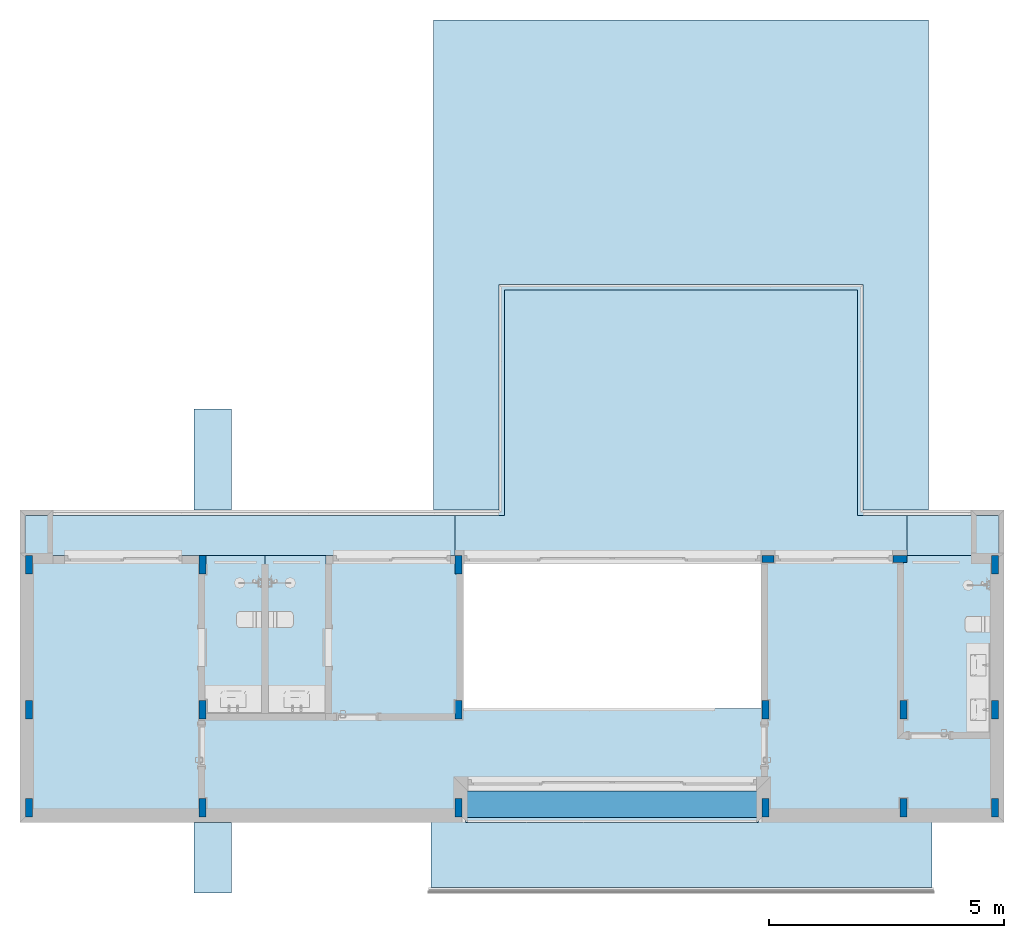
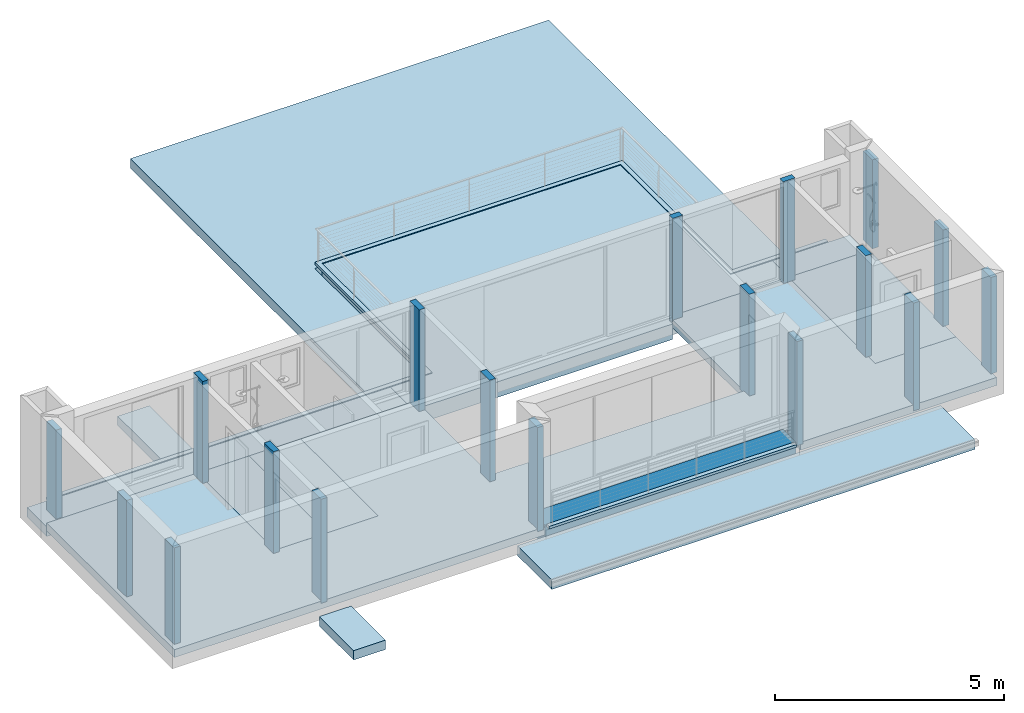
# One storey, part 1 of 24: 18 columns, 14 slabs.
"""IFC2X3 building model written with IfcOpenShell, lengths in millimetres."""

import ifcopenshell
import ifcopenshell.guid

model = None  # the IFC model being written
_history = None  # IfcOwnerHistory: only IFC2X3 demands one
_inside = {}  # id of a spatial element -> (the spatial element, [elements in it])
_under = {}  # id of a project, library or spatial element -> (it, [spatial elements below it])
_declared = {}  # id of a project -> (the project, [libraries it declares])
_typed = {}  # id of a type object -> (the type object, [elements of that type])
_made_of = {}  # id of a material, layer set ... -> (it, [elements and type objects made of it])


def new_model(schema):
    """Start an empty IFC model of exactly this schema.

    Asked for "IFC4X3", IfcOpenShell would pick the latest addendum, in which some entities
    have other attributes; the version numbers below select the first issue.
    IFC2X3 requires an IfcOwnerHistory on every rooted entity: one is made here for all.
    """
    global model, _history
    if schema == "IFC4X3":
        model = ifcopenshell.file(schema_version=(4, 3, 0, 0))
    else:
        model = ifcopenshell.file(schema=schema)
    _inside.clear()
    _under.clear()
    _declared.clear()
    _typed.clear()
    _made_of.clear()
    _history = None
    if model.schema == "IFC2X3":
        org = make("IfcOrganization", Name="unknown")
        user = make(
            "IfcPersonAndOrganization",
            ThePerson=make("IfcPerson", FamilyName="unknown"),
            TheOrganization=org,
        )
        app = make(
            "IfcApplication",
            ApplicationDeveloper=org,
            Version="unknown",
            ApplicationFullName="unknown",
            ApplicationIdentifier="unknown",
        )
        _history = make(
            "IfcOwnerHistory",
            OwningUser=user,
            OwningApplication=app,
            ChangeAction="ADDED",
            CreationDate=0,
        )
    return model


def make(cls, **values):
    """One entity of the class cls with the attributes given. An attribute that is None is left unset."""
    return model.create_entity(
        cls, **{name: value for name, value in values.items() if value is not None}
    )


def entity(cls, *values):
    """Any entity or typed value of the class cls, its attributes in the order of the schema. None: left unset."""
    e = model.create_entity(cls)
    for i, value in enumerate(values):
        if value is not None:
            e[i] = value
    return e


def rooted(cls, **values):
    """An entity with a GlobalId (a new one), such as an element, a storey or a relation."""
    return make(cls, GlobalId=ifcopenshell.guid.new(), OwnerHistory=_history, **values)


def si_unit(unit_type, name, prefix=None):
    """IfcSIUnit, for example si_unit("LENGTHUNIT", "METRE", prefix="MILLI")."""
    return make("IfcSIUnit", UnitType=unit_type, Prefix=prefix, Name=name)


def converted_unit(unit_type, name, factor, base, dimensions=None, offset=None):
    """IfcConversionBasedUnit, such as the inch: factor (a typed value) times the base unit."""
    return make(
        "IfcConversionBasedUnit"
        if offset is None
        else "IfcConversionBasedUnitWithOffset",
        ConversionOffset=offset,
        Dimensions=None
        if dimensions is None
        else entity("IfcDimensionalExponents", *dimensions),
        UnitType=unit_type,
        Name=name,
        ConversionFactor=make(
            "IfcMeasureWithUnit", ValueComponent=factor, UnitComponent=base
        ),
    )


def money_unit(currency):
    """IfcMonetaryUnit."""
    return make("IfcMonetaryUnit", Currency=currency)


def assignment(units):
    """IfcUnitAssignment: the units of a project."""
    return None if units is None else make("IfcUnitAssignment", Units=units)


def point(xyz):
    """IfcCartesianPoint."""
    return None if xyz is None else make("IfcCartesianPoint", Coordinates=xyz)


def direction(xyz):
    """IfcDirection."""
    return None if xyz is None else make("IfcDirection", DirectionRatios=xyz)


def frame(location, z_axis=None, x_axis=None):
    """IfcAxis2Placement3D, a coordinate frame: its origin and axes. An axis left out is left unset."""
    return make(
        "IfcAxis2Placement3D",
        Location=point(location),
        Axis=direction(z_axis),
        RefDirection=direction(x_axis),
    )


def frame_2d(location, x_axis=None):
    """IfcAxis2Placement2D, a coordinate frame in the plane: its origin and x axis."""
    return make(
        "IfcAxis2Placement2D", Location=point(location), RefDirection=direction(x_axis)
    )


def origin_with_axes():
    """The frame at (0, 0, 0) with the z axis (0, 0, 1) and the x axis (1, 0, 0) written out."""
    return frame((0.0, 0.0, 0.0), z_axis=(0.0, 0.0, 1.0), x_axis=(1.0, 0.0, 0.0))


def origin_2d_with_axis():
    """The frame at (0, 0) in the plane with the x axis (1, 0) written out."""
    return frame_2d((0.0, 0.0), x_axis=(1.0, 0.0))


def place(relative_to, where):
    """IfcLocalPlacement: puts the frame where relative to a parent placement (None: the world)."""
    return make(
        "IfcLocalPlacement", PlacementRelTo=relative_to, RelativePlacement=where
    )


def context(
    kind, dimensions, precision=None, world=None, true_north=None, identifier=None
):
    """IfcGeometricRepresentationContext, for example the 3D "Model" context."""
    return make(
        "IfcGeometricRepresentationContext",
        ContextIdentifier=identifier,
        ContextType=kind,
        CoordinateSpaceDimension=dimensions,
        Precision=precision,
        WorldCoordinateSystem=world,
        TrueNorth=true_north,
    )


def subcontext(parent, identifier, kind, view, scale=None):
    """IfcGeometricRepresentationSubContext, for example "Body" below "Model"."""
    return make(
        "IfcGeometricRepresentationSubContext",
        ContextIdentifier=identifier,
        ContextType=kind,
        ParentContext=parent,
        TargetScale=scale,
        TargetView=view,
    )


def project(units=None, contexts=None):
    """IfcProject with its units and contexts."""
    return rooted(
        "IfcProject",
        Name="project",
        RepresentationContexts=contexts,
        UnitsInContext=assignment(units),
    )


def spatial(cls, under=None, at=None, **own):
    """A site, building, storey or space (cls), placed at a placement, below another one or the project."""
    s = rooted(cls, ObjectPlacement=at, **own)
    if under is not None:
        _under.setdefault(under.id(), (under, []))[1].append(s)
    return s


def polyline(points):
    """IfcPolyline through the points."""
    return make("IfcPolyline", Points=[point(p) for p in points])


def profile(cls, at=None, kind="AREA", **sizes):
    """A parametric profile (cls). Its sizes go by their IFC names, for example OverallWidth=200.0."""
    return make(cls, ProfileType=kind, Position=at, **sizes)


def rectangle(**sizes):
    """IfcRectangleProfileDef."""
    return profile("IfcRectangleProfileDef", **sizes)


def outline(outer, holes=None, kind="AREA"):
    """IfcArbitraryClosedProfileDef: a profile drawn as a closed curve; with holes, ...WithVoids."""
    if holes is None:
        return make("IfcArbitraryClosedProfileDef", ProfileType=kind, OuterCurve=outer)
    return make(
        "IfcArbitraryProfileDefWithVoids",
        ProfileType=kind,
        OuterCurve=outer,
        InnerCurves=holes,
    )


def extrude(swept, where, along, depth):
    """IfcExtrudedAreaSolid: the profile swept, set in the frame where, extruded along a direction by depth."""
    return make(
        "IfcExtrudedAreaSolid",
        SweptArea=swept,
        Position=where,
        ExtrudedDirection=direction(along),
        Depth=depth,
    )


def shape(context_of_items, identifier, shape_type, items):
    """IfcShapeRepresentation: the items that make up one representation, for example the "Body"."""
    return make(
        "IfcShapeRepresentation",
        ContextOfItems=context_of_items,
        RepresentationIdentifier=identifier,
        RepresentationType=shape_type,
        Items=items,
    )


def material(Name=None, Category=None):
    """IfcMaterial."""
    return make("IfcMaterial", Name=Name, Category=Category)


def layer(
    of_material, thickness, ventilated=None, Name=None, Category=None, Priority=None
):
    """IfcMaterialLayer: one layer of a wall or slab, of a material (None: an air gap)."""
    return make(
        "IfcMaterialLayer",
        Material=of_material,
        LayerThickness=thickness,
        IsVentilated=ventilated,
        Name=Name,
        Category=Category,
        Priority=Priority,
    )


def layer_set(layers, Name=None):
    """IfcMaterialLayerSet."""
    return make("IfcMaterialLayerSet", MaterialLayers=layers, LayerSetName=Name)


def layer_usage(for_layer_set, set_direction, sense, offset, extent=None):
    """IfcMaterialLayerSetUsage: how a layer set lies in its element."""
    return make(
        "IfcMaterialLayerSetUsage",
        ForLayerSet=for_layer_set,
        LayerSetDirection=set_direction,
        DirectionSense=sense,
        OffsetFromReferenceLine=offset,
        ReferenceExtent=extent,
    )


def made_of(thing, what):
    """Note that an element or type object is made of a material, layer set ...; save() writes the relation."""
    if what is not None:
        _made_of.setdefault(what.id(), (what, []))[1].append(thing)
    return thing


def type_object(cls, material=None, **own):
    """A type object (cls), such as IfcWallType, which elements share."""
    return made_of(rooted(cls, **own), material)


def element(
    cls,
    number,
    at=None,
    inside=None,
    cuts=None,
    type_object=None,
    material=None,
    context=None,
    identifier="Body",
    shape_type=None,
    held_by="IfcProductDefinitionShape",
    body=None,
    shapes=None,
    **own,
):
    """One element of the class cls, such as IfcWall. Its Tag is "e" and its number.

    at: its placement. inside: the storey or other place that contains it. cuts: it is an
    opening in that element (IfcRelVoidsElement). A single representation is given by context,
    identifier, shape_type and body (its items); several are given by shapes. held_by: the class
    of the entity that holds the representations. save() writes the other relations.
    """
    e = rooted(cls, Tag="e%d" % number, ObjectPlacement=at, **own)
    if body is not None:
        shapes = [shape(context, identifier, shape_type, body)]
    if shapes is not None:
        e.Representation = make(held_by, Representations=shapes)
    if inside is not None:
        _inside.setdefault(inside.id(), (inside, []))[1].append(e)
    if cuts is not None:
        rooted(
            "IfcRelVoidsElement", RelatingBuildingElement=cuts, RelatedOpeningElement=e
        )
    if type_object is not None:
        _typed.setdefault(type_object.id(), (type_object, []))[1].append(e)
    return made_of(e, material)


def aggregate(whole, parts):
    """IfcRelAggregates: a whole, such as a stair, and the parts it consists of."""
    return rooted("IfcRelAggregates", RelatingObject=whole, RelatedObjects=parts)


def save(model, path):
    """Write the relations noted so far, then the file.

    IfcRelAggregates (storeys below a building ...), IfcRelContainedInSpatialStructure (elements
    in a storey), IfcRelDefinesByType, IfcRelAssociatesMaterial and IfcRelDeclares: one each for
    every whole, place, type object, material and project.
    """
    for whole, parts in _under.values():
        aggregate(whole, parts)
    for where, things in _inside.values():
        rooted(
            "IfcRelContainedInSpatialStructure",
            RelatedElements=things,
            RelatingStructure=where,
        )
    for kind, things in _typed.values():
        rooted("IfcRelDefinesByType", RelatedObjects=things, RelatingType=kind)
    for what, things in _made_of.values():
        rooted("IfcRelAssociatesMaterial", RelatedObjects=things, RelatingMaterial=what)
    for by, libraries in _declared.values():
        rooted("IfcRelDeclares", RelatingContext=by, RelatedDefinitions=libraries)
    model.write(path)


model = new_model("IFC2X3")

# Units and contexts
model_context = context("Model", 3, precision=1e-05, world=origin_with_axes(), true_north=direction((0.0, 1.0)))
body_context = subcontext(model_context, "Body", "Model", "MODEL_VIEW")
ifc_project = project(units=[si_unit("LENGTHUNIT", "METRE", prefix="MILLI"), si_unit("AREAUNIT", "SQUARE_METRE"), si_unit("VOLUMEUNIT", "CUBIC_METRE"), converted_unit("PLANEANGLEUNIT", "DEGREE", entity("IfcPlaneAngleMeasure", 0.0174532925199), si_unit("PLANEANGLEUNIT", "RADIAN"), dimensions=[0, 0, 0, 0, 0, 0, 0]), si_unit("SOLIDANGLEUNIT", "STERADIAN"), money_unit("USD"), converted_unit("TIMEUNIT", "Year", entity("IfcTimeMeasure", 31556926.0), si_unit("TIMEUNIT", "SECOND"), dimensions=[0, 0, 0, 0, 0, 0, 0]), si_unit("MASSUNIT", "GRAM"), si_unit("THERMODYNAMICTEMPERATUREUNIT", "DEGREE_CELSIUS"), si_unit("LUMINOUSINTENSITYUNIT", "LUMEN")], contexts=[model_context])

# Site, building, storey
site_placement = place(None, origin_with_axes())
site = spatial("IfcSite", under=ifc_project, at=site_placement, Name="Grove Residential", CompositionType="ELEMENT")
building_placement = place(site_placement, origin_with_axes())
building = spatial("IfcBuilding", under=site, at=building_placement, Name="Building", CompositionType="ELEMENT")
storey_placement = place(building_placement, frame((0.0, 0.0, 3740.0), z_axis=(0.0, 0.0, 1.0), x_axis=(1.0, 0.0, 0.0)))
storey = spatial("IfcBuildingStorey", under=building, at=storey_placement, Name="First Floor", CompositionType="ELEMENT", Elevation=3740.0)

# Columns
ifc_material_1 = material(Name="Concrete - Structural")
column_type_1 = type_object("IfcColumnType", Name="Concrete - Structural 150 x 400", PredefinedType="NOTDEFINED")
for number, where, z_axis, x_axis, name in (
    (1, (12060.0, 3749.99996722, 140.0), (0.0, 0.0, 1.0), (1.0, 0.0, 0.0), "CRE - 001"),
    (2, (12060.0, 1664.99992309, 140.0), (0.0, 0.0, 1.0), (1.0, 0.0, 0.0), "CRE - 001"),
):
    element("IfcColumn", number, at=place(storey_placement, frame(where, z_axis=z_axis, x_axis=x_axis)), inside=storey, type_object=column_type_1, material=ifc_material_1, Name=name, ObjectType="Concrete - Structural 150 x 400", context=body_context, shape_type="SweptSolid", body=[
        extrude(rectangle(XDim=150.0, YDim=400.0, at=origin_2d_with_axis()), origin_with_axes(), (0.0, 0.0, 1.0), 2570.0),
    ])
for number, where, z_axis, x_axis, name in (
    (3, (12060.0, 6835.0, 340.0), (0.0, 0.0, 1.0), (1.0, 0.0, 0.0), "CRE - 001"),
    (4, (-8510.0, 6835.0, 340.0), (0.0, 0.0, 1.0), (1.0, 0.0, 0.0), "CRE - 001"),
):
    element("IfcColumn", number, at=place(storey_placement, frame(where, z_axis=z_axis, x_axis=x_axis)), inside=storey, type_object=column_type_1, material=ifc_material_1, Name=name, ObjectType="Concrete - Structural 150 x 400", context=body_context, shape_type="SweptSolid", body=[
        extrude(rectangle(XDim=150.0, YDim=400.0, at=origin_2d_with_axis()), origin_with_axes(), (0.0, 0.0, 1.0), 2370.0),
    ])
column_1_placement = place(storey_placement, frame((639.999982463, 3749.99996722, -60.0), z_axis=(0.0, 0.0, 1.0), x_axis=(1.0, 0.0, 0.0)))
element("IfcColumn", 5, at=column_1_placement, inside=storey, type_object=column_type_1, material=ifc_material_1, Name="CRE - 001", ObjectType="Concrete - Structural 150 x 400", context=body_context, shape_type="SweptSolid", body=[
    extrude(rectangle(XDim=150.0, YDim=400.0, at=origin_2d_with_axis()), origin_with_axes(), (0.0, 0.0, 1.0), 2770.0),
])
column_2_placement = place(storey_placement, frame((10109.9999055, 3749.99996722, -160.0), z_axis=(0.0, 0.0, 1.0), x_axis=(1.0, 0.0, 0.0)))
element("IfcColumn", 6, at=column_2_placement, inside=storey, type_object=column_type_1, material=ifc_material_1, Name="CRE - 001", ObjectType="Concrete - Structural 150 x 400", context=body_context, shape_type="SweptSolid", body=[
    extrude(rectangle(XDim=150.0, YDim=400.0, at=origin_2d_with_axis()), origin_with_axes(), (0.0, 0.0, 1.0), 2870.0),
])
column_3_placement = place(storey_placement, frame((639.999982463, 6835.00024558, -60.0), z_axis=(0.0, 0.0, 1.0), x_axis=(1.0, 0.0, 0.0)))
element("IfcColumn", 7, at=column_3_placement, inside=storey, type_object=column_type_1, material=ifc_material_1, Name="CRE - 001", ObjectType="Concrete - Structural 150 x 400", context=body_context, shape_type="SweptSolid", body=[
    extrude(rectangle(XDim=150.0, YDim=400.0, at=origin_2d_with_axis()), origin_with_axes(), (0.0, 0.0, 1.0), 2770.0),
])
column_4_placement = place(storey_placement, frame((10109.9999055, 1664.99992309, -160.0), z_axis=(0.0, 0.0, 1.0), x_axis=(1.0, 0.0, 0.0)))
element("IfcColumn", 8, at=column_4_placement, inside=storey, type_object=column_type_1, material=ifc_material_1, Name="CRE - 001", ObjectType="Concrete - Structural 150 x 400", context=body_context, shape_type="SweptSolid", body=[
    extrude(rectangle(XDim=150.0, YDim=400.0, at=origin_2d_with_axis()), origin_with_axes(), (0.0, 0.0, 1.0), 2870.0),
])
for number, where, z_axis, x_axis, name in (
    (9, (7174.99995594, 3749.99996722, -60.0), (0.0, 0.0, 1.0), (1.0, 0.0, 0.0), "CRE - 001"),
    (10, (639.999982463, 1664.99992309, -60.0), (0.0, 0.0, 1.0), (1.0, 0.0, 0.0), "CRE - 001"),
    (11, (7174.99995594, 1664.99992309, -60.0), (0.0, 0.0, 1.0), (1.0, 0.0, 0.0), "CRE - 001"),
    (12, (-4810.0, 3749.99996722, -60.0), (0.0, 0.0, 1.0), (1.0, 0.0, 0.0), "CRE - 001"),
    (13, (-4810.0, 1664.99992309, -60.0), (0.0, 0.0, 1.0), (1.0, 0.0, 0.0), "CRE - 001"),
    (14, (-4810.0, 6835.00024558, -60.0), (0.0, 0.0, 1.0), (1.0, 0.0, 0.0), "CRE - 001"),
):
    element("IfcColumn", number, at=place(storey_placement, frame(where, z_axis=z_axis, x_axis=x_axis)), inside=storey, type_object=column_type_1, material=ifc_material_1, Name=name, ObjectType="Concrete - Structural 150 x 400", context=body_context, shape_type="SweptSolid", body=[
        extrude(rectangle(XDim=150.0, YDim=400.0, at=origin_2d_with_axis()), origin_with_axes(), (0.0, 0.0, 1.0), 2770.0),
    ])
for number, where, z_axis, x_axis, name in (
    (15, (-8510.0, 3749.99996722, 140.0), (0.0, 0.0, 1.0), (1.0, 0.0, 0.0), "CRE - 001"),
    (16, (-8510.0, 1664.99992309, 140.0), (0.0, 0.0, 1.0), (1.0, 0.0, 0.0), "CRE - 001"),
):
    element("IfcColumn", number, at=place(storey_placement, frame(where, z_axis=z_axis, x_axis=x_axis)), inside=storey, type_object=column_type_1, material=ifc_material_1, Name=name, ObjectType="Concrete - Structural 150 x 400", context=body_context, shape_type="SweptSolid", body=[
        extrude(rectangle(XDim=150.0, YDim=400.0, at=origin_2d_with_axis()), origin_with_axes(), (0.0, 0.0, 1.0), 2570.0),
    ])
column_type_2 = type_object("IfcColumnType", Name="Concrete - Structural 250 x 150", PredefinedType="NOTDEFINED")
column_5_placement = place(storey_placement, frame((7225.0, 6960.00013886, -60.0000083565), z_axis=(0.0, 0.0, 1.0), x_axis=(1.0, 0.0, 0.0)))
element("IfcColumn", 17, at=column_5_placement, inside=storey, type_object=column_type_2, material=ifc_material_1, Name="CRE - 001", ObjectType="Concrete - Structural 250 x 150", context=body_context, shape_type="SweptSolid", body=[
    extrude(rectangle(XDim=250.0, YDim=150.0, at=origin_2d_with_axis()), origin_with_axes(), (0.0, 0.0, 1.0), 2770.00000836),
])
column_type_3 = type_object("IfcColumnType", Name="Concrete - Structural 300 x 150", PredefinedType="NOTDEFINED")
column_6_placement = place(storey_placement, frame((10035.0, 6960.00009863, -60.0000083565), z_axis=(0.0, 0.0, 1.0), x_axis=(1.0, 0.0, 0.0)))
element("IfcColumn", 18, at=column_6_placement, inside=storey, type_object=column_type_3, material=ifc_material_1, Name="CRE - 001", ObjectType="Concrete - Structural 300 x 150", context=body_context, shape_type="SweptSolid", body=[
    extrude(rectangle(XDim=300.0, YDim=150.0, at=origin_2d_with_axis()), origin_with_axes(), (0.0, 0.0, 1.0), 2770.00000836),
])

# Slabs
ifc_material_2 = material(Name="Floor Tiles")
ifc_layer_1 = layer(ifc_material_2, 20.0, ventilated="UNKNOWN")
ifc_material_3 = material(Name="Screed")
ifc_layer_2 = layer(ifc_material_3, 40.0, ventilated="UNKNOWN")
ifc_layer_3 = layer(ifc_material_1, 150.0, ventilated="UNKNOWN")
ifc_layer_set_1 = layer_set([ifc_layer_1, ifc_layer_2, ifc_layer_3], Name="IFS - 008")
ifc_layer_usage_1 = layer_usage(ifc_layer_set_1, "AXIS3", "NEGATIVE", 210.0)
slab_type_1 = type_object("IfcSlabType", Name="IFS - 008 210", PredefinedType="FLOOR")
slab_1_placement = place(storey_placement, frame((-3485.0, 3649.9998754, 0.0), z_axis=(0.0, 0.0, 1.0), x_axis=(1.0, 0.0, 0.0)))
element("IfcSlab", 19, at=slab_1_placement, inside=storey, type_object=slab_type_1, material=ifc_layer_usage_1, Name="SLA - 001", PredefinedType="FLOOR", context=body_context, shape_type="SweptSolid", body=[
    extrude(outline(polyline([(0.0, 0.0), (1300.00000515, 0.0), (1300.00000515, 3385.0001246), (0.0, 3385.0001246), (0.0, 0.0)])), frame((0.0, 0.0, -210.0), z_axis=(0.0, 0.0, 1.0), x_axis=(1.0, 0.0, 0.0)), (0.0, 0.0, 1.0), 210.0),
])
ifc_layer_usage_2 = layer_usage(ifc_layer_set_1, "AXIS3", "NEGATIVE", 210.0)
slab_2_placement = place(storey_placement, frame((-3485.0, 3649.99996722, 0.0), z_axis=(0.0, 0.0, 1.0), x_axis=(1.0, 0.0, 0.0)))
element("IfcSlab", 20, at=slab_2_placement, inside=storey, type_object=slab_type_1, material=ifc_layer_usage_2, Name="SLA - 001", PredefinedType="FLOOR", context=body_context, shape_type="SweptSolid", body=[
    extrude(outline(polyline([(0.0, 0.0), (0.0, 3385.00003278), (-1299.99998195, 3385.00003278), (-1299.99998195, 0.0), (0.0, 0.0)])), frame((0.0, 0.0, -210.0), z_axis=(0.0, 0.0, 1.0), x_axis=(1.0, 0.0, 0.0)), (0.0, 0.0, 1.0), 210.0),
])
ifc_layer_usage_3 = layer_usage(ifc_layer_set_1, "AXIS3", "NEGATIVE", 210.0)
slab_3_placement = place(storey_placement, frame((10100.0, 3249.99996364, 0.0), z_axis=(0.0, 0.0, 1.0), x_axis=(1.0, 0.0, 0.0)))
element("IfcSlab", 21, at=slab_3_placement, inside=storey, type_object=slab_type_1, material=ifc_layer_usage_3, Name="SLA - 001", PredefinedType="FLOOR", context=body_context, shape_type="SweptSolid", body=[
    extrude(outline(polyline([(0.0, 0.0), (2035.0, 0.0), (2035.0, 3785.00003636), (0.0, 3785.00003636), (0.0, 0.0)])), frame((0.0, 0.0, -210.0), z_axis=(0.0, 0.0, 1.0), x_axis=(1.0, 0.0, 0.0)), (0.0, 0.0, 1.0), 210.0),
])
ifc_material_4 = material(Name="Polished Concrete")
ifc_layer_4 = layer(ifc_material_4, 10.0, ventilated="UNKNOWN")
ifc_layer_5 = layer(ifc_material_3, 50.0, ventilated="UNKNOWN")
ifc_layer_6 = layer(ifc_material_1, 150.0, ventilated="UNKNOWN")
ifc_layer_set_2 = layer_set([ifc_layer_4, ifc_layer_5, ifc_layer_6], Name="IFS - 006")
ifc_layer_usage_4 = layer_usage(ifc_layer_set_2, "AXIS3", "NEGATIVE", 210.0)
slab_type_2 = type_object("IfcSlabType", Name="IFS - 006 210", PredefinedType="FLOOR")
slab_4_placement = place(storey_placement, frame((-8585.0, 1464.99992309, 0.0), z_axis=(0.0, 0.0, 1.0), x_axis=(1.0, 0.0, 0.0)))
element("IfcSlab", 22, at=slab_4_placement, inside=storey, type_object=slab_type_2, material=ifc_layer_usage_4, Name="SLA - 001", PredefinedType="FLOOR", context=body_context, shape_type="SweptSolid", body=[
    extrude(outline(polyline([(0.0, 0.0), (9334.99992013, 0.0), (9334.99992013, 560.000044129), (15775.000062, 560.000044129), (15775.000062, 0.0), (20720.0, 0.0), (20720.0, 1785.00017524), (18685.0, 1785.00017524), (18685.0, 5570.00007691), (15684.9996737, 5570.00007691), (15684.9999719, 2310.00020862), (9299.99998246, 2310.00020862), (9299.99998246, 5570.00007691), (6400.00000515, 5570.00007691), (6400.00000515, 2184.99995232), (3800.00001805, 2184.99995232), (3800.00001805, 5570.00022769), (0.0, 5570.00022769), (0.0, 0.0)])), frame((0.0, 0.0, -210.0), z_axis=(0.0, 0.0, 1.0), x_axis=(1.0, 0.0, 0.0)), (0.0, 0.0, 1.0), 210.0),
])
ifc_material_5 = material(Name="Timber - Floor")
ifc_layer_7 = layer(ifc_material_5, 50.0, ventilated="UNKNOWN")
ifc_material_6 = material(Name="Air Space - Fixing Zone")
ifc_layer_8 = layer(ifc_material_6, 150.0, ventilated="UNKNOWN")
ifc_material_7 = material(Name="Membrane - Rainproof")
ifc_layer_9 = layer(ifc_material_7, 10.0, ventilated="UNKNOWN")
ifc_material_8 = material(Name="Insulation - Plastic Hard")
ifc_layer_10 = layer(ifc_material_8, 50.0, ventilated="UNKNOWN")
ifc_layer_11 = layer(ifc_material_1, 150.0, ventilated="UNKNOWN")
ifc_layer_set_3 = layer_set([ifc_layer_7, ifc_layer_8, ifc_layer_9, ifc_layer_10, ifc_layer_11], Name="IFS - 003")
ifc_layer_usage_5 = layer_usage(ifc_layer_set_3, "AXIS3", "NEGATIVE", 410.0)
slab_type_3 = type_object("IfcSlabType", Name="IFS - 003 410", PredefinedType="FLOOR")
slab_5_placement = place(storey_placement, frame((564.999982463, 7034.99992132, -100.0), z_axis=(0.0, 0.0, 1.0), x_axis=(1.0, 0.0, 0.0)))
element("IfcSlab", 23, at=slab_5_placement, inside=storey, type_object=slab_type_3, material=ifc_layer_usage_5, Name="SLA - 001", PredefinedType="FLOOR", context=body_context, shape_type="SweptSolid", body=[
    extrude(outline(polyline([(0.0, 0.0), (159.99995078, 0.0), (159.99995078, -149.999921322), (6535.00000323, -149.999921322), (6535.00000323, 0.0), (9619.99992305, 0.0), (9619.99992305, 850.000171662), (8570.00011052, 850.000171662), (8570.00011052, 5650.00018716), (1049.99985303, 5650.00018716), (1049.99985303, 850.000171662), (0.0, 850.000171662), (0.0, 0.0)])), frame((0.0, 0.0, -410.0), z_axis=(0.0, 0.0, 1.0), x_axis=(1.0, 0.0, 0.0)), (0.0, 0.0, 1.0), 410.0),
])
ifc_material_9 = material(Name="GENERIC - STRUCTURAL")
ifc_layer_12 = layer(ifc_material_9, 250.0, ventilated="UNKNOWN")
ifc_layer_set_4 = layer_set([ifc_layer_12], Name="GENERIC - STRUCTURAL 250")
ifc_layer_usage_6 = layer_usage(ifc_layer_set_4, "AXIS3", "NEGATIVE", 250.0)
slab_type_4 = type_object("IfcSlabType", Name="GENERIC - STRUCTURAL 250", PredefinedType="FLOOR")
slab_6_placement = place(storey_placement, frame((-5000.0, 1350.0, -300.0), z_axis=(0.0, 0.0, 1.0), x_axis=(1.0, 0.0, 0.0)))
element("IfcSlab", 24, at=slab_6_placement, inside=storey, type_object=slab_type_4, material=ifc_layer_usage_6, Name="SLA - 001", PredefinedType="FLOOR", context=body_context, shape_type="SweptSolid", body=[
    extrude(outline(polyline([(0.0, 0.0), (0.0, -1500.0), (800.0, -1500.0), (800.0, 0.0), (0.0, 0.0)])), frame((0.0, 0.0, -250.0), z_axis=(0.0, 0.0, 1.0), x_axis=(1.0, 0.0, 0.0)), (0.0, 0.0, 1.0), 250.0),
])
ifc_layer_usage_7 = layer_usage(ifc_layer_set_4, "AXIS3", "NEGATIVE", 250.0)
slab_7_placement = place(storey_placement, frame((-5000.0, 10150.0, -300.0), z_axis=(0.0, 0.0, 1.0), x_axis=(1.0, 0.0, 0.0)))
element("IfcSlab", 25, at=slab_7_placement, inside=storey, type_object=slab_type_4, material=ifc_layer_usage_7, Name="SLA - 001", PredefinedType="FLOOR", context=body_context, shape_type="SweptSolid", body=[
    extrude(outline(polyline([(0.0, 0.0), (0.0, -2150.0), (800.0, -2150.0), (800.0, 0.0), (0.0, 0.0)])), frame((0.0, 0.0, -250.0), z_axis=(0.0, 0.0, 1.0), x_axis=(1.0, 0.0, 0.0)), (0.0, 0.0, 1.0), 250.0),
])
ifc_layer_13 = layer(ifc_material_3, 50.0, ventilated="UNKNOWN")
ifc_layer_14 = layer(ifc_material_7, 10.0, ventilated="UNKNOWN")
ifc_layer_15 = layer(ifc_material_8, 50.0, ventilated="UNKNOWN")
ifc_layer_16 = layer(ifc_material_1, 150.0, ventilated="UNKNOWN")
ifc_layer_set_5 = layer_set([ifc_layer_13, ifc_layer_14, ifc_layer_15, ifc_layer_16], Name="IFS - 002")
ifc_layer_usage_8 = layer_usage(ifc_layer_set_5, "AXIS3", "NEGATIVE", 260.0)
slab_type_5 = type_object("IfcSlabType", Name="IFS - 002 260", PredefinedType="FLOOR")
slab_8_placement = place(storey_placement, frame((105.0, 18435.0, -250.0), z_axis=(0.0, 0.0, 1.0), x_axis=(1.0, 0.0, 0.0)))
element("IfcSlab", 26, at=slab_8_placement, inside=storey, type_object=slab_type_5, material=ifc_layer_usage_8, Name="SLA - 001", PredefinedType="FLOOR", context=body_context, shape_type="SweptSolid", body=[
    extrude(outline(polyline([(0.0, 0.0), (0.0, -10435.0), (1394.99988526, -10435.0), (1394.99988526, -5635.0), (9145.0, -5635.0), (9145.0, -10435.0), (10540.0, -10435.0), (10540.0, 0.0), (0.0, 0.0)])), frame((0.0, 0.0, -260.0), z_axis=(0.0, 0.0, 1.0), x_axis=(1.0, 0.0, 0.0)), (0.0, 0.0, 1.0), 260.0),
])
ifc_layer_usage_9 = layer_usage(ifc_layer_set_5, "AXIS3", "NEGATIVE", 260.0)
slab_9_placement = place(storey_placement, frame((749.999989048, 1460.00003353, -250.0), z_axis=(0.0, 0.0, 1.0), x_axis=(1.0, 0.0, 0.0)))
element("IfcSlab", 27, at=slab_9_placement, inside=storey, type_object=slab_type_5, material=ifc_layer_usage_9, Name="SLA - 001", PredefinedType="FLOOR", context=body_context, shape_type="SweptSolid", body=[
    extrude(outline(polyline([(0.0, 0.0), (0.0, 5.0), (-694.999989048, 4.99984107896), (-694.999989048, -1495.00003353), (9970.00001095, -1495.00003353), (9970.00001095, 4.99984107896), (6325.00000894, 5.0), (6325.00000894, 0.0), (0.0, 0.0)])), frame((0.0, 0.0, -260.0), z_axis=(0.0, 0.0, 1.0), x_axis=(1.0, 0.0, 0.0)), (0.0, 0.0, 1.0), 260.0),
])
ifc_layer_17 = layer(ifc_material_5, 50.0, ventilated="UNKNOWN")
ifc_layer_18 = layer(ifc_material_6, 300.0, ventilated="UNKNOWN")
ifc_layer_19 = layer(ifc_material_7, 10.0, ventilated="UNKNOWN")
ifc_layer_20 = layer(ifc_material_8, 50.0, ventilated="UNKNOWN")
ifc_layer_21 = layer(ifc_material_1, 150.0, ventilated="UNKNOWN")
ifc_layer_set_6 = layer_set([ifc_layer_17, ifc_layer_18, ifc_layer_19, ifc_layer_20, ifc_layer_21], Name="IFS - 004")
ifc_layer_usage_10 = layer_usage(ifc_layer_set_6, "AXIS3", "NEGATIVE", 560.0)
slab_type_6 = type_object("IfcSlabType", Name="IFS - 004 560", PredefinedType="FLOOR")
slab_10_placement = place(storey_placement, frame((750.0, 2025.00002696, 50.0), z_axis=(0.0, 0.0, 1.0), x_axis=(1.0, 0.0, 0.0)))
element("IfcSlab", 28, at=slab_10_placement, inside=storey, type_object=slab_type_6, material=ifc_layer_usage_10, Name="SLA - 001", PredefinedType="FLOOR", context=body_context, shape_type="SweptSolid", body=[
    extrude(outline(polyline([(0.0, 0.0), (0.0, -565.000103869), (6325.0, -565.000103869), (6325.0, 0.0), (0.0, 0.0)])), frame((0.0, 0.0, -560.0), z_axis=(0.0, 0.0, 1.0), x_axis=(1.0, 0.0, 0.0)), (0.0, 0.0, 1.0), 560.0),
])
ifc_layer_22 = layer(ifc_material_5, 50.0, ventilated="UNKNOWN")
ifc_layer_23 = layer(ifc_material_7, 10.0, ventilated="UNKNOWN")
ifc_layer_24 = layer(ifc_material_8, 50.0, ventilated="UNKNOWN")
ifc_layer_25 = layer(ifc_material_1, 150.0, ventilated="UNKNOWN")
ifc_layer_set_7 = layer_set([ifc_layer_22, ifc_layer_23, ifc_layer_24, ifc_layer_25], Name="IFS - 009")
ifc_layer_usage_11 = layer_usage(ifc_layer_set_7, "AXIS3", "NEGATIVE", 260.0)
slab_type_7 = type_object("IfcSlabType", Name="IFS - 009 260", PredefinedType="FLOOR")
slab_11_placement = place(storey_placement, frame((10184.9999055, 7034.99992132, -100.0), z_axis=(0.0, 0.0, 1.0), x_axis=(1.0, 0.0, 0.0)))
element("IfcSlab", 29, at=slab_11_placement, inside=storey, type_object=slab_type_7, material=ifc_layer_usage_11, Name="SLA - 001", PredefinedType="FLOOR", context=body_context, shape_type="SweptSolid", body=[
    extrude(outline(polyline([(0.0, 0.0), (1950.00009449, 0.0), (1950.00009449, 850.000171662), (0.0, 850.000171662), (0.0, 0.0)])), frame((0.0, 0.0, -260.0), z_axis=(0.0, 0.0, 1.0), x_axis=(1.0, 0.0, 0.0)), (0.0, 0.0, 1.0), 260.0),
])
ifc_layer_usage_12 = layer_usage(ifc_layer_set_7, "AXIS3", "NEGATIVE", 260.0)
slab_12_placement = place(storey_placement, frame((-8000.00012159, 7885.00009298, -100.0), z_axis=(0.0, 0.0, 1.0), x_axis=(1.0, 0.0, 0.0)))
element("IfcSlab", 30, at=slab_12_placement, inside=storey, type_object=slab_type_7, material=ifc_layer_usage_12, Name="SLA - 001", PredefinedType="FLOOR", context=body_context, shape_type="SweptSolid", body=[
    extrude(outline(polyline([(-584.999878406, 0.0), (-584.999878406, -850.000171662), (8565.00010406, -850.000171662), (8565.00010406, 0.0), (-584.999878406, 0.0)])), frame((0.0, 0.0, -260.0), z_axis=(0.0, 0.0, 1.0), x_axis=(1.0, 0.0, 0.0)), (0.0, 0.0, 1.0), 260.0),
])
ifc_material_10 = material(Name="Timber - External Cladding")
ifc_layer_26 = layer(ifc_material_10, 70.0, ventilated="UNKNOWN")
ifc_layer_set_8 = layer_set([ifc_layer_26], Name="Timber - External Cladding 70")
ifc_layer_usage_13 = layer_usage(ifc_layer_set_8, "AXIS3", "NEGATIVE", 70.0)
slab_type_8 = type_object("IfcSlabType", Name="Timber - External Cladding 70", PredefinedType="FLOOR")
slab_13_placement = place(storey_placement, frame((-8040.0, 7885.0, -80.0), z_axis=(0.0, 0.0, 1.0), x_axis=(1.0, 0.0, 0.0)))
element("IfcSlab", 31, at=slab_13_placement, inside=storey, type_object=slab_type_8, material=ifc_layer_usage_13, Name="SLA - 001", PredefinedType="FLOOR", context=body_context, shape_type="SweptSolid", body=[
    extrude(outline(polyline([(0.0, 0.0), (9654.99983549, 9.29833383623e-05), (9654.99983549, 4800.00010848), (17175.000093, 4800.00010848), (17175.000093, 0.0), (19630.0000809, 0.0), (19629.9999569, 115.0), (17290.0, 115.0), (17290.0, 4915.0), (9539.99988526, 4915.0), (9539.99988526, 115.0), (0.0, 115.0), (0.0, 0.0)])), frame((0.0, 0.0, -70.0), z_axis=(0.0, 0.0, 1.0), x_axis=(1.0, 0.0, 0.0)), (0.0, 0.0, 1.0), 70.0),
])
ifc_layer_usage_14 = layer_usage(ifc_layer_set_8, "AXIS3", "NEGATIVE", 70.0)
slab_14_placement = place(storey_placement, frame((789.999982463, 1349.99992309, 70.0), z_axis=(0.0, 0.0, 1.0), x_axis=(1.0, 0.0, 0.0)))
element("IfcSlab", 32, at=slab_14_placement, inside=storey, type_object=slab_type_8, material=ifc_layer_usage_14, Name="SLA - 001", PredefinedType="FLOOR", context=body_context, shape_type="SweptSolid", body=[
    extrude(outline(polyline([(0.0, 0.0), (6234.99997347, 0.0), (6234.99997347, 110.0), (0.0, 110.0), (0.0, 0.0)])), frame((0.0, 0.0, -70.0), z_axis=(0.0, 0.0, 1.0), x_axis=(1.0, 0.0, 0.0)), (0.0, 0.0, 1.0), 70.0),
])

save(model, "model.ifc")
